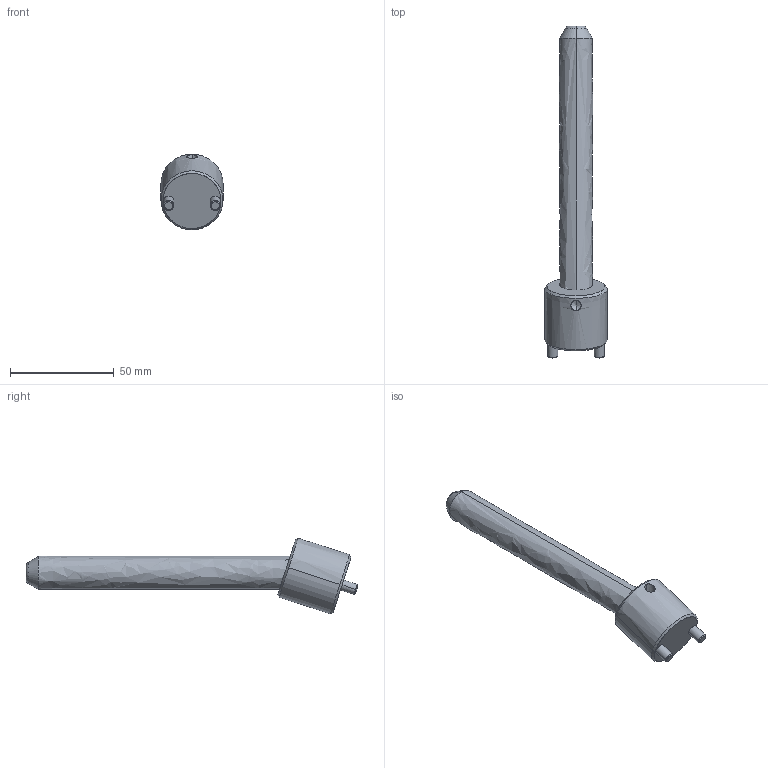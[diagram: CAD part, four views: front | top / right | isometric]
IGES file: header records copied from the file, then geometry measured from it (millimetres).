
Start section: START RECORD GO HERE.
Global section: file name: CI1816125.igs; native system: DASSAULT SYSTEMES CATIA V5 R20 - www.3ds.com; preprocessor: CATIA Version 5 Release 20 ; author: r.borello; organization: CFTORINO; date: 20190624.094328; units: millimetre
Bounding box: 30 x 160.31 x 36.57 mm (x, y, z)
Surface area: 13211 mm2 (no closed solid volume)
Topology: 0 solids, 0 shells, 39 faces, 162 edges, 160 vertices
Faces by surface type: revolution 32, plane 7
